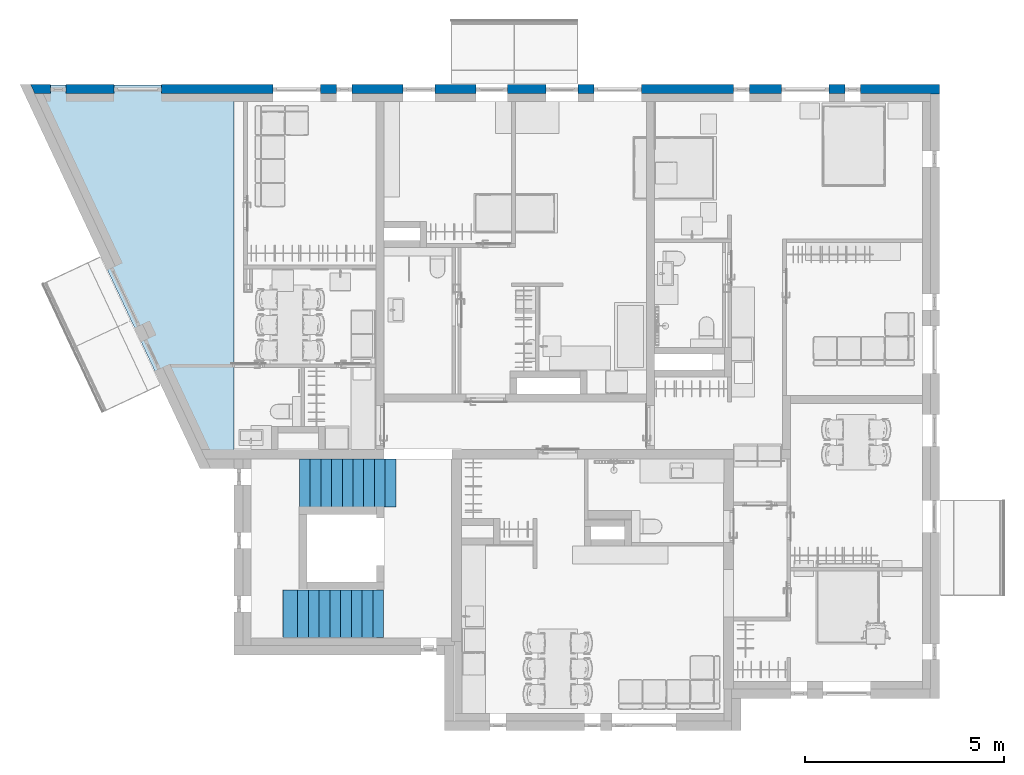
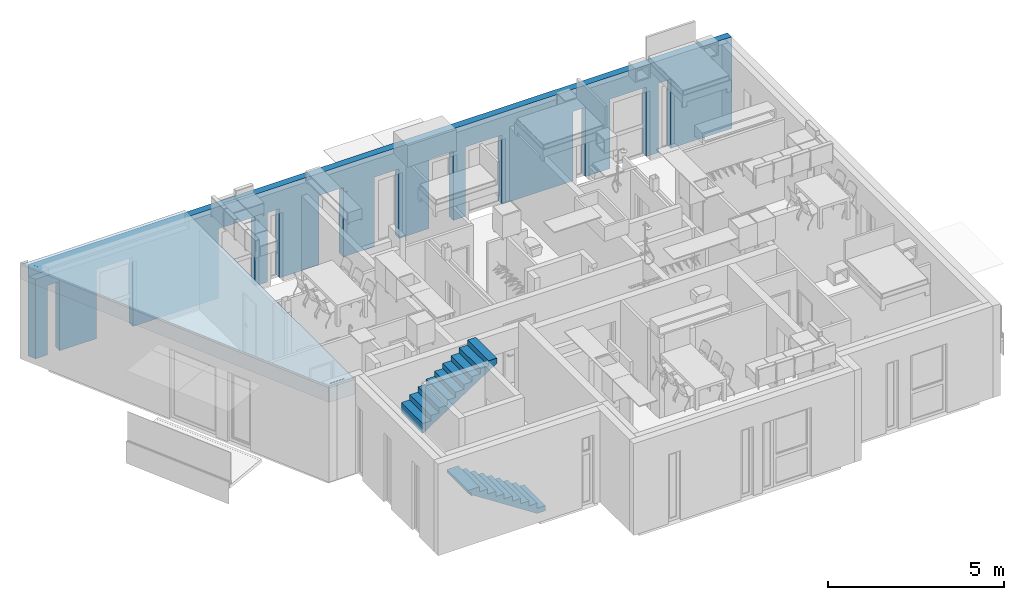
# One storey, part 11 of 68: 2 stair flights, 1 roof, 1 wall, 1 element without a shape of its own.
"""IFC2X3 building model written with IfcOpenShell, lengths in millimetres."""

import ifcopenshell
import ifcopenshell.guid

model = None  # the IFC model being written
_history = None  # IfcOwnerHistory: only IFC2X3 demands one
_inside = {}  # id of a spatial element -> (the spatial element, [elements in it])
_under = {}  # id of a project, library or spatial element -> (it, [spatial elements below it])
_declared = {}  # id of a project -> (the project, [libraries it declares])
_typed = {}  # id of a type object -> (the type object, [elements of that type])
_made_of = {}  # id of a material, layer set ... -> (it, [elements and type objects made of it])


def new_model(schema):
    """Start an empty IFC model of exactly this schema.

    Asked for "IFC4X3", IfcOpenShell would pick the latest addendum, in which some entities
    have other attributes; the version numbers below select the first issue.
    IFC2X3 requires an IfcOwnerHistory on every rooted entity: one is made here for all.
    """
    global model, _history
    if schema == "IFC4X3":
        model = ifcopenshell.file(schema_version=(4, 3, 0, 0))
    else:
        model = ifcopenshell.file(schema=schema)
    _inside.clear()
    _under.clear()
    _declared.clear()
    _typed.clear()
    _made_of.clear()
    _history = None
    if model.schema == "IFC2X3":
        org = make("IfcOrganization", Name="unknown")
        user = make(
            "IfcPersonAndOrganization",
            ThePerson=make("IfcPerson", FamilyName="unknown"),
            TheOrganization=org,
        )
        app = make(
            "IfcApplication",
            ApplicationDeveloper=org,
            Version="unknown",
            ApplicationFullName="unknown",
            ApplicationIdentifier="unknown",
        )
        _history = make(
            "IfcOwnerHistory",
            OwningUser=user,
            OwningApplication=app,
            ChangeAction="ADDED",
            CreationDate=0,
        )
    return model


def make(cls, **values):
    """One entity of the class cls with the attributes given. An attribute that is None is left unset."""
    return model.create_entity(
        cls, **{name: value for name, value in values.items() if value is not None}
    )


def entity(cls, *values):
    """Any entity or typed value of the class cls, its attributes in the order of the schema. None: left unset."""
    e = model.create_entity(cls)
    for i, value in enumerate(values):
        if value is not None:
            e[i] = value
    return e


def rooted(cls, **values):
    """An entity with a GlobalId (a new one), such as an element, a storey or a relation."""
    return make(cls, GlobalId=ifcopenshell.guid.new(), OwnerHistory=_history, **values)


def si_unit(unit_type, name, prefix=None):
    """IfcSIUnit, for example si_unit("LENGTHUNIT", "METRE", prefix="MILLI")."""
    return make("IfcSIUnit", UnitType=unit_type, Prefix=prefix, Name=name)


def converted_unit(unit_type, name, factor, base, dimensions=None, offset=None):
    """IfcConversionBasedUnit, such as the inch: factor (a typed value) times the base unit."""
    return make(
        "IfcConversionBasedUnit"
        if offset is None
        else "IfcConversionBasedUnitWithOffset",
        ConversionOffset=offset,
        Dimensions=None
        if dimensions is None
        else entity("IfcDimensionalExponents", *dimensions),
        UnitType=unit_type,
        Name=name,
        ConversionFactor=make(
            "IfcMeasureWithUnit", ValueComponent=factor, UnitComponent=base
        ),
    )


def assignment(units):
    """IfcUnitAssignment: the units of a project."""
    return None if units is None else make("IfcUnitAssignment", Units=units)


def point(xyz):
    """IfcCartesianPoint."""
    return None if xyz is None else make("IfcCartesianPoint", Coordinates=xyz)


def direction(xyz):
    """IfcDirection."""
    return None if xyz is None else make("IfcDirection", DirectionRatios=xyz)


def frame(location, z_axis=None, x_axis=None):
    """IfcAxis2Placement3D, a coordinate frame: its origin and axes. An axis left out is left unset."""
    return make(
        "IfcAxis2Placement3D",
        Location=point(location),
        Axis=direction(z_axis),
        RefDirection=direction(x_axis),
    )


def origin():
    """The frame at (0, 0, 0) with its axes left unset."""
    return frame((0.0, 0.0, 0.0))


def place(relative_to, where):
    """IfcLocalPlacement: puts the frame where relative to a parent placement (None: the world)."""
    return make(
        "IfcLocalPlacement", PlacementRelTo=relative_to, RelativePlacement=where
    )


def context(
    kind, dimensions, precision=None, world=None, true_north=None, identifier=None
):
    """IfcGeometricRepresentationContext, for example the 3D "Model" context."""
    return make(
        "IfcGeometricRepresentationContext",
        ContextIdentifier=identifier,
        ContextType=kind,
        CoordinateSpaceDimension=dimensions,
        Precision=precision,
        WorldCoordinateSystem=world,
        TrueNorth=true_north,
    )


def subcontext(parent, identifier, kind, view, scale=None):
    """IfcGeometricRepresentationSubContext, for example "Body" below "Model"."""
    return make(
        "IfcGeometricRepresentationSubContext",
        ContextIdentifier=identifier,
        ContextType=kind,
        ParentContext=parent,
        TargetScale=scale,
        TargetView=view,
    )


def project(units=None, contexts=None):
    """IfcProject with its units and contexts."""
    return rooted(
        "IfcProject",
        Name="project",
        RepresentationContexts=contexts,
        UnitsInContext=assignment(units),
    )


def spatial(cls, under=None, at=None, **own):
    """A site, building, storey or space (cls), placed at a placement, below another one or the project."""
    s = rooted(cls, ObjectPlacement=at, **own)
    if under is not None:
        _under.setdefault(under.id(), (under, []))[1].append(s)
    return s


def faces_of(points, faces, orient=None, outer=None):
    """IfcFace entities. A face is a list of loops; a loop is a list of indices into points, from 0.

    orient and outer hold one flag for each loop. By default every Orientation is true, the
    first loop of a face is its IfcFaceOuterBound and the others are IfcFaceBound.
    """
    made = []
    for i, loops in enumerate(faces):
        bounds = []
        for j, loop in enumerate(loops):
            is_outer = j == 0 if outer is None else outer[i][j]
            bounds.append(
                make(
                    "IfcFaceOuterBound" if is_outer else "IfcFaceBound",
                    Bound=make("IfcPolyLoop", Polygon=[points[k] for k in loop]),
                    Orientation=True if orient is None else orient[i][j],
                )
            )
        made.append(make("IfcFace", Bounds=bounds))
    return made


def faceted_brep(points, faces, orient=None, outer=None, voids=None):
    """IfcFacetedBrep: a solid bounded by flat faces; with voids (closed shells), ...WithVoids."""
    shared = [point(p) for p in points]
    hull = make("IfcClosedShell", CfsFaces=faces_of(shared, faces, orient, outer))
    if voids is None:
        return make("IfcFacetedBrep", Outer=hull)
    return make(
        "IfcFacetedBrepWithVoids",
        Outer=hull,
        Voids=[
            make(cls, CfsFaces=faces_of(shared, fs, o, b)) for cls, fs, o, b in voids
        ],
    )


def shape(context_of_items, identifier, shape_type, items):
    """IfcShapeRepresentation: the items that make up one representation, for example the "Body"."""
    return make(
        "IfcShapeRepresentation",
        ContextOfItems=context_of_items,
        RepresentationIdentifier=identifier,
        RepresentationType=shape_type,
        Items=items,
    )


def material(Name=None, Category=None):
    """IfcMaterial."""
    return make("IfcMaterial", Name=Name, Category=Category)


def layer(
    of_material, thickness, ventilated=None, Name=None, Category=None, Priority=None
):
    """IfcMaterialLayer: one layer of a wall or slab, of a material (None: an air gap)."""
    return make(
        "IfcMaterialLayer",
        Material=of_material,
        LayerThickness=thickness,
        IsVentilated=ventilated,
        Name=Name,
        Category=Category,
        Priority=Priority,
    )


def layer_set(layers, Name=None):
    """IfcMaterialLayerSet."""
    return make("IfcMaterialLayerSet", MaterialLayers=layers, LayerSetName=Name)


def made_of(thing, what):
    """Note that an element or type object is made of a material, layer set ...; save() writes the relation."""
    if what is not None:
        _made_of.setdefault(what.id(), (what, []))[1].append(thing)
    return thing


def type_object(cls, material=None, **own):
    """A type object (cls), such as IfcWallType, which elements share."""
    return made_of(rooted(cls, **own), material)


def element(
    cls,
    number,
    at=None,
    inside=None,
    cuts=None,
    type_object=None,
    material=None,
    context=None,
    identifier="Body",
    shape_type=None,
    held_by="IfcProductDefinitionShape",
    body=None,
    shapes=None,
    **own,
):
    """One element of the class cls, such as IfcWall. Its Tag is "e" and its number.

    at: its placement. inside: the storey or other place that contains it. cuts: it is an
    opening in that element (IfcRelVoidsElement). A single representation is given by context,
    identifier, shape_type and body (its items); several are given by shapes. held_by: the class
    of the entity that holds the representations. save() writes the other relations.
    """
    e = rooted(cls, Tag="e%d" % number, ObjectPlacement=at, **own)
    if body is not None:
        shapes = [shape(context, identifier, shape_type, body)]
    if shapes is not None:
        e.Representation = make(held_by, Representations=shapes)
    if inside is not None:
        _inside.setdefault(inside.id(), (inside, []))[1].append(e)
    if cuts is not None:
        rooted(
            "IfcRelVoidsElement", RelatingBuildingElement=cuts, RelatedOpeningElement=e
        )
    if type_object is not None:
        _typed.setdefault(type_object.id(), (type_object, []))[1].append(e)
    return made_of(e, material)


def aggregate(whole, parts):
    """IfcRelAggregates: a whole, such as a stair, and the parts it consists of."""
    return rooted("IfcRelAggregates", RelatingObject=whole, RelatedObjects=parts)


def save(model, path):
    """Write the relations noted so far, then the file.

    IfcRelAggregates (storeys below a building ...), IfcRelContainedInSpatialStructure (elements
    in a storey), IfcRelDefinesByType, IfcRelAssociatesMaterial and IfcRelDeclares: one each for
    every whole, place, type object, material and project.
    """
    for whole, parts in _under.values():
        aggregate(whole, parts)
    for where, things in _inside.values():
        rooted(
            "IfcRelContainedInSpatialStructure",
            RelatedElements=things,
            RelatingStructure=where,
        )
    for kind, things in _typed.values():
        rooted("IfcRelDefinesByType", RelatedObjects=things, RelatingType=kind)
    for what, things in _made_of.values():
        rooted("IfcRelAssociatesMaterial", RelatedObjects=things, RelatingMaterial=what)
    for by, libraries in _declared.values():
        rooted("IfcRelDeclares", RelatingContext=by, RelatedDefinitions=libraries)
    model.write(path)


model = new_model("IFC2X3")

# Units and contexts
model_context = context("Model", 3, precision=0.01, world=origin(), true_north=direction((6.123233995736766e-17, 1.0)))
plan_context = context("Plan", 3, precision=0.01, world=origin(), true_north=direction((6.123233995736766e-17, 1.0)))
body_context = subcontext(model_context, "Body", "Model", "MODEL_VIEW")
ifc_project = project(units=[si_unit("LENGTHUNIT", "METRE", prefix="MILLI"), converted_unit("PLANEANGLEUNIT", "DEGREE", entity("IfcPlaneAngleMeasure", 0.017453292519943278), si_unit("PLANEANGLEUNIT", "RADIAN"), dimensions=[0, 0, 0, 0, 0, 0, 0]), si_unit("AREAUNIT", "SQUARE_METRE")], contexts=[model_context, plan_context])

# Site, building, storey
site_placement = place(None, origin())
site = spatial("IfcSite", under=ifc_project, at=site_placement, Name="Default", CompositionType="ELEMENT")
building_placement = place(site_placement, origin())
building = spatial("IfcBuilding", under=site, at=building_placement, CompositionType="ELEMENT")
storey_placement = place(building_placement, frame((0.0, 0.0, 6295.0)))
storey = spatial("IfcBuildingStorey", under=building, at=storey_placement, Name="3K", CompositionType="ELEMENT", Elevation=6294.999999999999)

# Wall
ifc_material_1 = material(Name="_K. Väisviimistlus. Krohv. Valge")
ifc_layer_1 = layer(ifc_material_1, 10.0)
ifc_material_2 = material(Name="_K. Soojustus. EPS Silver")
ifc_layer_2 = layer(ifc_material_2, 230.0)
ifc_layer_set_1 = layer_set([ifc_layer_1, ifc_layer_2], Name="Basic Wall:VS-01")
wall_type = type_object("IfcWallType", Name="Basic Wall:VS-01", PredefinedType="STANDARD", material=ifc_layer_set_1)
wall_placement = place(storey_placement, frame((-5553.470835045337, 15710.0, 0.0)))
element("IfcWall", 1, at=wall_placement, inside=storey, type_object=wall_type, Name="Basic Wall:VS-01", ObjectType="Basic Wall:VS-01", context=body_context, shape_type="Brep", body=[
    faceted_brep([(22883.470835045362, -120.0, 0.0), (22883.470835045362, -120.0, 3170.0), (22653.470835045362, -120.0, 3170.0), (22653.470835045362, -120.0, 0.0), (0.0, 120.0, 0.0), (0.0, 120.0, 3170.0), (5123.470835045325, 120.0, 3170.0), (5703.470835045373, 120.0, 3170.0), (6903.470835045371, 120.0, 3170.0), (7303.470835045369, 120.0, 3170.0), (7703.470835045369, 120.0, 3170.0), (11213.470835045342, 120.0, 3170.0), (12013.47083504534, 120.0, 3170.0), (14503.470835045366, 120.0, 3170.0), (14903.47083504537, 120.0, 3170.0), (15303.47083504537, 120.0, 3170.0), (16503.470835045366, 120.0, 3170.0), (17763.47083504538, 120.0, 3170.0), (18103.470835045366, 120.0, 3170.0), (18903.470835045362, 120.0, 3170.0), (22883.470835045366, 120.0, 3170.0), (22883.470835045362, 120.0, 0.0), (20898.47083504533, 120.0, 0.0), (20898.47083504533, 120.0, 2400.0), (20498.47083504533, 120.0, 2400.0), (20498.47083504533, 120.0, 0.0), (20098.47083504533, 120.0, 0.0), (20098.470835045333, 120.0, 2400.0), (18898.47083504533, 120.0, 2400.0), (18898.47083504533, 120.0, 0.0), (18098.47083504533, 120.0, 0.0), (18098.470835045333, 120.0, 2400.0), (17698.47083504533, 120.0, 2400.0), (17698.47083504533, 120.0, 0.0), (15378.470835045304, 120.0, 0.0), (15378.470835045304, 120.0, 2400.0), (14178.470835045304, 120.0, 2400.0), (14178.470835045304, 120.0, 0.0), (13778.470835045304, 120.0, 0.0), (13778.470835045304, 120.0, 2400.0), (12978.470835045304, 120.0, 2400.0), (12978.470835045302, 120.0, 0.0), (12008.4708350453, 120.0, 0.0), (12008.4708350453, 120.0, 2400.0), (11208.470835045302, 120.0, 2400.0), (11208.470835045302, 120.0, 0.0), (10178.47083504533, 120.0, 0.0), (10178.47083504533, 120.0, 2400.0), (9378.47083504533, 120.0, 2400.0), (9378.47083504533, 120.0, 0.0), (8098.470835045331, 120.0, 0.0), (8098.470835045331, 120.0, 2400.0), (7698.470835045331, 120.0, 2400.0), (7698.470835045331, 120.0, 0.0), (7298.470835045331, 120.0, 0.0), (7298.470835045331, 120.0, 2400.0), (6098.470835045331, 120.0, 2400.0), (6098.470835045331, 120.0, 0.0), (3298.470835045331, 120.0, 0.0), (3298.470835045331, 120.0, 2400.0), (2098.470835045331, 120.0, 2400.0), (2098.470835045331, 120.0, 0.0), (898.4708350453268, 120.0, 0.0), (898.4708350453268, 120.0, 2400.0), (498.4708350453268, 120.0, 2400.0), (498.4708350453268, 120.0, 0.0), (898.4708350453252, 40.0, 0.0), (2098.47083504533, 40.0, 0.0), (2098.47083504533, 30.0, 0.0), (2098.4708350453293, -110.0, 0.0), (898.4708350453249, -110.0, 0.0), (898.4708350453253, 30.0, 0.0), (107.81249993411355, -110.0, 0.0), (107.81249993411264, -110.0, 2749.999801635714), (4.687499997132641, 110.0, 2749.999801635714), (4.687499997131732, 110.0, 3170.0), (22653.470835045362, -110.0, 0.0), (22653.470835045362, -110.0, 3170.0), (5123.470835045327, -110.0, 3170.0), (5123.470835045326, -110.0, 2749.999801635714), (317.6508398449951, -110.0, 2749.999801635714), (317.6508398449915, -110.0, 0.0), (498.4708350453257, -110.0, 0.0), (498.4708350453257, -110.0, 2400.0), (898.4708350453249, -110.0, 2400.0), (2098.4708350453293, -110.0, 2400.0), (3298.4708350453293, -110.0, 2400.0), (3298.47083504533, -110.0, 0.0), (6098.470835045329, -110.0, 0.0), (6098.470835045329, -110.0, 2400.0), (7298.47083504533, -110.0, 2400.0), (7298.47083504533, -110.0, 0.0), (7698.47083504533, -110.0, 0.0), (7698.47083504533, -110.0, 2400.0), (8098.47083504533, -110.0, 2400.0), (8098.47083504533, -110.0, 0.0), (9378.47083504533, -110.0, 0.0), (9378.470835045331, -110.0, 2400.0), (10178.470835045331, -110.0, 2400.0), (10178.470835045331, -110.0, 0.0), (11208.470835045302, -110.0, 0.0), (11208.470835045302, -110.0, 2400.0), (12008.470835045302, -110.0, 2400.0), (12008.470835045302, -110.0, 0.0), (12978.470835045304, -110.0, 0.0), (12978.470835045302, -110.0, 2400.0), (13778.470835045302, -110.0, 2400.0), (13778.470835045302, -110.0, 0.0), (14178.470835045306, -110.0, 0.0), (14178.470835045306, -110.0, 2400.0), (15378.470835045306, -110.0, 2400.0), (15378.470835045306, -110.0, 0.0), (17698.47083504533, -110.0, 0.0), (17698.47083504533, -110.0, 2400.0), (18098.47083504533, -110.0, 2400.0), (18098.47083504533, -110.0, 0.0), (18898.47083504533, -110.0, 0.0), (18898.47083504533, -110.0, 2400.0), (20098.47083504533, -110.0, 2400.0), (20098.470835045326, -110.0, 0.0), (20498.47083504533, -110.0, 0.0), (20498.47083504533, -110.0, 2400.0), (20898.47083504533, -110.0, 2400.0), (20898.47083504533, -110.0, 0.0), (20898.47083504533, 40.0, 0.0), (20898.47083504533, 30.0, 0.0), (20498.47083504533, 30.0, 0.0), (20498.47083504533, 40.0, 0.0), (18098.47083504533, 40.0, 0.0), (18098.47083504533, 30.0, 0.0), (17698.47083504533, 30.0, 0.0), (17698.47083504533, 40.0, 0.0), (8098.47083504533, 40.0, 0.0), (8098.47083504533, 30.0, 0.0), (7698.47083504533, 30.0, 0.0), (7698.47083504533, 40.0, 0.0), (498.4708350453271, 30.0, 0.0), (498.4708350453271, 40.0, 0.0), (20098.470835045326, 40.0, 0.0), (20098.470835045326, 30.0, 0.0), (18898.47083504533, 30.0, 0.0), (18898.47083504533, 40.0, 0.0), (15378.470835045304, 40.0, 0.0), (15378.470835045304, 30.0, 0.0), (14178.470835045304, 30.0, 0.0), (14178.470835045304, 40.0, 0.0), (13778.4708350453, 40.0, 0.0), (13778.4708350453, 30.0, 0.0), (12978.470835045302, 30.0, 0.0), (12978.470835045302, 40.0, 0.0), (12008.4708350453, 40.0, 0.0), (12008.4708350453, 30.0, 0.0), (11208.4708350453, 30.0, 0.0), (11208.4708350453, 40.0, 0.0), (10178.47083504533, 40.0, 0.0), (10178.47083504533, 30.0, 0.0), (9378.47083504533, 30.0, 0.0), (9378.47083504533, 40.0, 0.0), (7298.470835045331, 40.0, 0.0), (7298.470835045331, 30.0, 0.0), (6098.47083504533, 30.0, 0.0), (6098.47083504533, 40.0, 0.0), (3298.47083504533, 40.0, 0.0), (3298.47083504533, 30.0, 0.0), (22883.470835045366, 110.0, 3170.0), (5123.470835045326, 110.0, 2749.999801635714), (5123.470835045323, 110.0, 3170.0)], [[[0, 1, 2, 3]], [[4, 5, 6, 7, 8, 9, 10, 11, 12, 13, 14, 15, 16, 17, 18, 19, 20, 21, 22, 23, 24, 25, 26, 27, 28, 29, 30, 31, 32, 33, 34, 35, 36, 37, 38, 39, 40, 41, 42, 43, 44, 45, 46, 47, 48, 49, 50, 51, 52, 53, 54, 55, 56, 57, 58, 59, 60, 61, 62, 63, 64, 65]], [[66, 62, 61, 67, 68, 69, 70, 71]], [[5, 4, 72, 73, 74, 75]], [[76, 77, 78, 79, 80, 73, 72, 81, 82, 83, 84, 70, 69, 85, 86, 87, 88, 89, 90, 91, 92, 93, 94, 95, 96, 97, 98, 99, 100, 101, 102, 103, 104, 105, 106, 107, 108, 109, 110, 111, 112, 113, 114, 115, 116, 117, 118, 119, 120, 121, 122, 123]], [[77, 76, 3, 2]], [[23, 22, 124, 125, 123, 122]], [[24, 23, 122, 121]], [[25, 24, 121, 120, 126, 127]], [[31, 30, 128, 129, 115, 114]], [[32, 31, 114, 113]], [[33, 32, 113, 112, 130, 131]], [[51, 50, 132, 133, 95, 94]], [[52, 51, 94, 93]], [[53, 52, 93, 92, 134, 135]], [[63, 62, 66, 71, 70, 84]], [[64, 63, 84, 83]], [[65, 64, 83, 82, 136, 137]], [[27, 26, 138, 139, 119, 118]], [[28, 27, 118, 117]], [[29, 28, 117, 116, 140, 141]], [[35, 34, 142, 143, 111, 110]], [[36, 35, 110, 109]], [[37, 36, 109, 108, 144, 145]], [[39, 38, 146, 147, 107, 106]], [[40, 39, 106, 105]], [[41, 40, 105, 104, 148, 149]], [[43, 42, 150, 151, 103, 102]], [[44, 43, 102, 101]], [[45, 44, 101, 100, 152, 153]], [[47, 46, 154, 155, 99, 98]], [[48, 47, 98, 97]], [[49, 48, 97, 96, 156, 157]], [[55, 54, 158, 159, 91, 90]], [[56, 55, 90, 89]], [[57, 56, 89, 88, 160, 161]], [[59, 58, 162, 163, 87, 86]], [[60, 59, 86, 85]], [[61, 60, 85, 69, 68, 67]], [[1, 0, 21, 20, 164]], [[75, 74, 165, 166]], [[1, 164, 166, 78, 77, 2]], [[166, 165, 79, 78]], [[5, 75, 166, 6]], [[164, 20, 19, 18, 17, 16, 15, 14, 13, 12, 11, 10, 9, 8, 7, 6, 166]], [[165, 74, 73, 80, 79]], [[132, 50, 49, 157, 156, 96, 95, 133]], [[128, 30, 29, 141, 140, 116, 115, 129]], [[22, 21, 0, 3, 76, 123, 125, 124]], [[4, 65, 137, 136, 82, 81, 72]], [[57, 161, 160, 88, 87, 163, 162, 58]], [[53, 135, 134, 92, 91, 159, 158, 54]], [[45, 153, 152, 100, 99, 155, 154, 46]], [[41, 149, 148, 104, 103, 151, 150, 42]], [[37, 145, 144, 108, 107, 147, 146, 38]], [[33, 131, 130, 112, 111, 143, 142, 34]], [[25, 127, 126, 120, 119, 139, 138, 26]]]),
])

# Stair, stair flights
type_product_1 = type_object("IfcTypeProduct", Name="Precast Stair:Default. Monteeritav raudbetoontrepp")
stair_placement = place(storey_placement, origin())
stair = element("IfcStair", 2, at=stair_placement, inside=storey, type_object=type_product_1, Name="Precast Stair:Stair", ObjectType="Precast Stair:Default. Monteeritav raudbetoontrepp", ShapeType="HALF_TURN_STAIR")
ifc_material_3 = material(Name="Temp. Betoon. Armeeritud. Kohtvalu")
stair_flight_type = type_object("IfcStairFlightType", Name="Monolithic Run:Default Run. Raudbetoon", PredefinedType="STRAIGHT")
stair_flight_1_placement = place(stair_placement, frame((802.4937255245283, 1905.0014695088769, 0.0)))
stair_flight_1 = element("IfcStairFlight", 3, at=stair_flight_1_placement, type_object=stair_flight_type, material=ifc_material_3, Name="Precast Stair:Stair:508940 Run 1", ObjectType="Monolithic Run:Default Run. Raudbetoon", NumberOfRiser=9, NumberOfTreads=9, RiserHeight=0.5777923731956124, TreadLength=0.8858267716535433, context=body_context, shape_type="Brep", body=[
    faceted_brep([(2260.0, 0.0, 156.11111535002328), (2530.0, 0.0, 156.11111535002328), (2530.0, 1200.0, 156.11111535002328), (2260.0, 1200.0, 156.11111535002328), (2260.0, 0.0, -20.0), (2530.0, 0.0, -20.0), (2530.0, 1200.0, -20.0), (2260.0, 1200.0, -20.0), (1990.0, 0.0, 332.22223070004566), (2260.0, 0.0, 332.22223070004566), (2260.0, 1200.0, 332.22223070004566), (1990.0, 1200.0, 332.22223070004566), (1990.0, 0.0, 153.13406964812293), (2255.435822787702, 0.0, -20.0), (2255.435822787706, 1200.0, -20.0), (1990.0, 1200.0, 153.13406964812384), (1720.0, 0.0, 508.33334605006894), (1990.0, 0.0, 508.33334605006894), (1990.0, 1200.0, 508.33334605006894), (1720.0, 1200.0, 508.33334605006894), (1720.0, 0.0, 329.2451849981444), (1720.0, 1200.0, 329.2451849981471), (1450.0, 0.0, 684.4444614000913), (1720.0, 0.0, 684.4444614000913), (1720.0, 1200.0, 684.4444614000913), (1450.0, 1200.0, 684.4444614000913), (1450.0, 0.0, 505.35630034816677), (1450.0, 1200.0, 505.3563003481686), (1180.0, 0.0, 860.5555767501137), (1450.0, 0.0, 860.5555767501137), (1450.0, 1200.0, 860.5555767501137), (1180.0, 1200.0, 860.5555767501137), (1180.0, 0.0, 681.46741569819), (1180.0, 1200.0, 681.4674156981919), (910.0, 0.0, 1036.666692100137), (1180.0, 0.0, 1036.666692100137), (1180.0, 1200.0, 1036.666692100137), (910.0, 1200.0, 1036.666692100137), (910.0, 0.0, 857.5785310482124), (910.0, 1200.0, 857.5785310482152), (640.0, 0.0, 1212.7778074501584), (910.0, 0.0, 1212.7778074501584), (910.0, 1200.0, 1212.7778074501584), (640.0, 1200.0, 1212.7778074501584), (640.0, 0.0, 1033.6896463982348), (640.0, 1200.0, 1033.6896463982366), (370.0, 0.0, 1388.8889228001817), (640.0, 0.0, 1388.8889228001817), (640.0, 1200.0, 1388.8889228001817), (370.0, 1200.0, 1388.8889228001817), (370.0, 0.0, 1209.800761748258), (370.0, 1200.0, 1209.80076174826), (162.72288091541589, 0.0, 1345.000038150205), (162.72288091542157, 1200.0, 1345.000038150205), (100.0, 0.0, 1345.000038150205), (100.0, 1200.0, 1345.000038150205), (0.0, 1200.0, 1465.000038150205), (100.0, 1200.0, 1465.000038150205), (100.0, 0.0, 1465.000038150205), (0.0, 0.0, 1465.000038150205), (0.0, 0.0, 1565.000038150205), (0.0, 1200.0, 1565.000038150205), (370.0, 0.0, 1565.000038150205), (370.0, 1200.0, 1565.000038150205)], [[[0, 1, 2, 3]], [[1, 0, 4, 5]], [[2, 1, 5, 6]], [[3, 2, 6, 7]], [[8, 9, 10, 11]], [[4, 0, 9, 8, 12, 13]], [[0, 3, 10, 9]], [[3, 7, 14, 15, 11, 10]], [[16, 17, 18, 19]], [[17, 16, 20, 12, 8]], [[8, 11, 18, 17]], [[19, 18, 11, 15, 21]], [[22, 23, 24, 25]], [[23, 22, 26, 20, 16]], [[16, 19, 24, 23]], [[25, 24, 19, 21, 27]], [[28, 29, 30, 31]], [[29, 28, 32, 26, 22]], [[22, 25, 30, 29]], [[31, 30, 25, 27, 33]], [[34, 35, 36, 37]], [[35, 34, 38, 32, 28]], [[28, 31, 36, 35]], [[37, 36, 31, 33, 39]], [[40, 41, 42, 43]], [[41, 40, 44, 38, 34]], [[34, 37, 42, 41]], [[43, 42, 37, 39, 45]], [[46, 47, 48, 49]], [[47, 46, 50, 44, 40]], [[40, 43, 48, 47]], [[49, 48, 43, 45, 51]], [[5, 4, 13, 14, 7, 6]], [[52, 53, 51, 45, 39, 33, 27, 21, 15, 14, 13, 12, 20, 26, 32, 38, 44, 50]], [[53, 52, 54, 55]], [[56, 57, 58, 59]], [[56, 59, 60, 61]], [[62, 63, 61, 60]], [[46, 62, 60, 59, 58, 54, 52, 50]], [[46, 49, 63, 62]], [[61, 63, 49, 51, 53, 55, 57, 56]], [[55, 54, 58, 57]]]),
])
stair_flight_2_placement = place(stair_placement, frame((1213.7438214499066, 5197.496907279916, 0.0)))
stair_flight_2 = element("IfcStairFlight", 4, at=stair_flight_2_placement, type_object=stair_flight_type, material=ifc_material_3, Name="Precast Stair:Stair:508940 Run 2", ObjectType="Monolithic Run:Default Run. Raudbetoon", NumberOfRiser=10, NumberOfTreads=9, RiserHeight=0.5777923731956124, TreadLength=0.8858267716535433, context=body_context, shape_type="Brep", body=[
    faceted_brep([(270.0, 1200.0, 1741.1111535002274), (0.0, 1200.0, 1741.1111535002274), (0.0, 0.0, 1741.1111535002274), (270.0, 0.0, 1741.1111535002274), (270.0, 1200.0, 1562.0229924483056), (0.0, 1200.0, 1385.9118770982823), (0.0, 0.0, 1385.9118770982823), (270.0, 0.0, 1562.0229924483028), (540.0, 1200.0, 1917.2222688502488), (270.0, 1200.0, 1917.2222688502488), (270.0, 0.0, 1917.2222688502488), (540.0, 0.0, 1917.2222688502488), (540.0, 1200.0, 1738.134107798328), (540.0, 0.0, 1738.134107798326), (810.0, 1200.0, 2093.333384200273), (540.0, 1200.0, 2093.333384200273), (540.0, 0.0, 2093.333384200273), (810.0, 0.0, 2093.333384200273), (810.0, 1200.0, 1914.2452231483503), (810.0, 0.0, 1914.2452231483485), (1080.0, 1200.0, 2269.4444995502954), (810.0, 1200.0, 2269.4444995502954), (810.0, 0.0, 2269.4444995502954), (1080.0, 0.0, 2269.4444995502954), (1080.0, 1200.0, 2090.3563384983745), (1080.0, 0.0, 2090.356338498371), (1350.0, 1200.0, 2445.555614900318), (1080.0, 1200.0, 2445.555614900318), (1080.0, 0.0, 2445.555614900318), (1350.0, 0.0, 2445.555614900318), (1350.0, 1200.0, 2266.467453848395), (1350.0, 0.0, 2266.4674538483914), (1620.0, 1200.0, 2621.66673025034), (1350.0, 1200.0, 2621.66673025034), (1350.0, 0.0, 2621.66673025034), (1620.0, 0.0, 2621.66673025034), (1620.0, 1200.0, 2442.5785691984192), (1620.0, 0.0, 2442.5785691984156), (1890.0, 1200.0, 2797.7778456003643), (1620.0, 1200.0, 2797.7778456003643), (1620.0, 0.0, 2797.7778456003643), (1890.0, 0.0, 2797.7778456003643), (1890.0, 1200.0, 2618.6896845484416), (1890.0, 0.0, 2618.689684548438), (2160.0, 1200.0, 2973.888960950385), (1890.0, 1200.0, 2973.888960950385), (1890.0, 0.0, 2973.888960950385), (2160.0, 0.0, 2973.888960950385), (2160.0, 1200.0, 2794.800799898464), (2160.0, 0.0, 2794.800799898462), (2430.0, 1200.0, 2970.9119152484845), (2430.0, 0.0, 2970.911915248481), (2430.0, 1200.0, 3150.000076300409), (2160.0, 1200.0, 3150.000076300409), (2160.0, 0.0, 3150.000076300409), (2430.0, 0.0, 3150.000076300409)], [[[0, 1, 2, 3]], [[1, 0, 4, 5]], [[2, 1, 5, 6]], [[3, 2, 6, 7]], [[8, 9, 10, 11]], [[9, 8, 12, 4, 0]], [[10, 9, 0, 3]], [[11, 10, 3, 7, 13]], [[14, 15, 16, 17]], [[15, 14, 18, 12, 8]], [[16, 15, 8, 11]], [[17, 16, 11, 13, 19]], [[20, 21, 22, 23]], [[21, 20, 24, 18, 14]], [[22, 21, 14, 17]], [[23, 22, 17, 19, 25]], [[26, 27, 28, 29]], [[27, 26, 30, 24, 20]], [[28, 27, 20, 23]], [[29, 28, 23, 25, 31]], [[32, 33, 34, 35]], [[33, 32, 36, 30, 26]], [[34, 33, 26, 29]], [[35, 34, 29, 31, 37]], [[38, 39, 40, 41]], [[39, 38, 42, 36, 32]], [[40, 39, 32, 35]], [[41, 40, 35, 37, 43]], [[44, 45, 46, 47]], [[45, 44, 48, 42, 38]], [[46, 45, 38, 41]], [[47, 46, 41, 43, 49]], [[5, 4, 12, 18, 24, 30, 36, 42, 48, 50, 51, 49, 43, 37, 31, 25, 19, 13, 7, 6]], [[52, 53, 54, 55]], [[53, 52, 50, 48, 44]], [[54, 53, 44, 47]], [[55, 54, 47, 49, 51]], [[52, 55, 51, 50]]]),
])
aggregate(stair, [stair_flight_1, stair_flight_2])

# Roof
ifc_material_4 = material(Name="_K. Katusekate. Rullmaterjal. PVC(1)")
ifc_layer_3 = layer(ifc_material_4, 2.0)
ifc_material_5 = material(Name="_K. Betoon. Armeeritud. Kohtvalu")
ifc_layer_4 = layer(ifc_material_5, 80.0)
ifc_material_6 = material(Name="_K. Soojustus. EPS")
ifc_layer_5 = layer(ifc_material_6, 50.0)
ifc_layer_6 = layer(ifc_material_6, 150.0)
ifc_material_7 = material(Name="_K. Aurutõke. Rullmaterjal. SBS")
ifc_layer_7 = layer(ifc_material_7, 5.0)
ifc_material_8 = material(Name="_K. Betoon. Armeeritud. Monteeritav")
ifc_layer_8 = layer(ifc_material_8, 220.0)
ifc_layer_set_2 = layer_set([ifc_layer_3, ifc_layer_4, ifc_layer_5, ifc_layer_6, ifc_layer_7, ifc_layer_8], Name="Basic Roof:KL-02")
type_product_2 = type_object("IfcTypeProduct", Name="Basic Roof:KL-02")
roof_placement = place(storey_placement, frame((-5802.798167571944, 6174.99995949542, 2749.999801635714)))
element("IfcRoof", 5, at=roof_placement, inside=storey, type_object=type_product_2, material=ifc_layer_set_2, Name="Basic Roof:KL-02", ObjectType="Basic Roof:KL-02", ShapeType="NOTDEFINED", context=body_context, shape_type="Brep", body=[
    faceted_brep([(5372.798167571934, 9645.00004050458, 0.0), (5372.798167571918, 0.0, 0.0), (4521.09376622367, 0.0, 0.0), (0.0, 9645.000040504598, 0.0), (5372.798167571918, 180.0, 507.0), (5372.798167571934, 9465.00004050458, 507.0), (283.16921670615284, 9465.000040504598, 507.0), (4635.51298303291, 180.0, 507.0), (0.0, 9645.000040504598, 505.0), (5372.798167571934, 9645.00004050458, 505.0), (4521.093766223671, 0.0, 505.0), (5372.798167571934, 9465.00004050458, 505.0), (5372.798167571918, 180.0, 505.0), (5372.798167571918, 0.0, 505.0), (283.16921670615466, 9465.000040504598, 505.0), (4635.51298303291, 180.0, 505.0)], [[[0, 1, 2, 3]], [[4, 5, 6, 7]], [[0, 3, 8, 9]], [[3, 2, 10, 8]], [[1, 0, 9, 11, 5, 4, 12, 13]], [[2, 1, 13, 10]], [[14, 11, 9, 8, 10, 13, 12, 15]], [[11, 14, 6, 5]], [[15, 12, 4, 7]], [[14, 15, 7, 6]]]),
])

save(model, "model.ifc")
